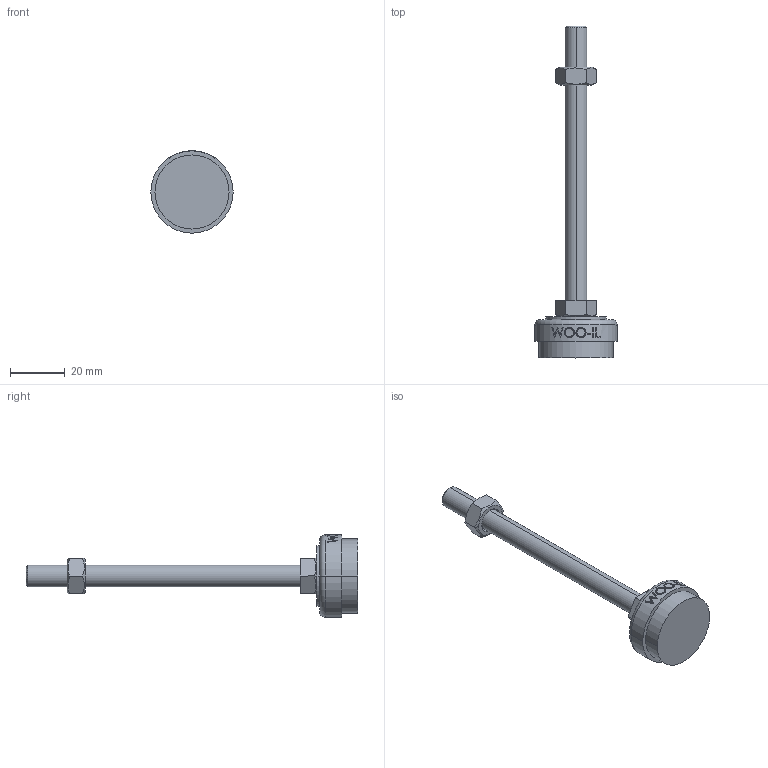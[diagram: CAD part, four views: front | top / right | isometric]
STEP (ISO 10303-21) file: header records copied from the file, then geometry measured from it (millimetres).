
FILE_DESCRIPTION (( 'STEP AP214' ), '1' );
FILE_NAME ('NS30-M8-100.step', '2021-01-11T05:41:34', ( '' ), ( '' ), 'SwSTEP 2.0', 'SolidWorks 2019', '' );
FILE_SCHEMA (( 'AUTOMOTIVE_DESIGN' ));
Length unit declared in the file: millimetre
Products named in the file (2): NS30-M8-100
Bounding box: 30 x 121 x 30 mm (x, y, z)
Volume: 15878.7 mm3; surface area: 6330 mm2
Topology: 3 solids, 3 shells, 96 faces, 223 edges, 144 vertices
Faces by surface type: plane 48, cylinder 18, bspline 16, cone 12, torus 2
Entity records: 4114 total; most frequent: CARTESIAN_POINT 1989, ORIENTED_EDGE 446, DIRECTION 381, EDGE_CURVE 223, VERTEX_POINT 144, AXIS2_PLACEMENT_3D 142, EDGE_LOOP 109, LINE 97
